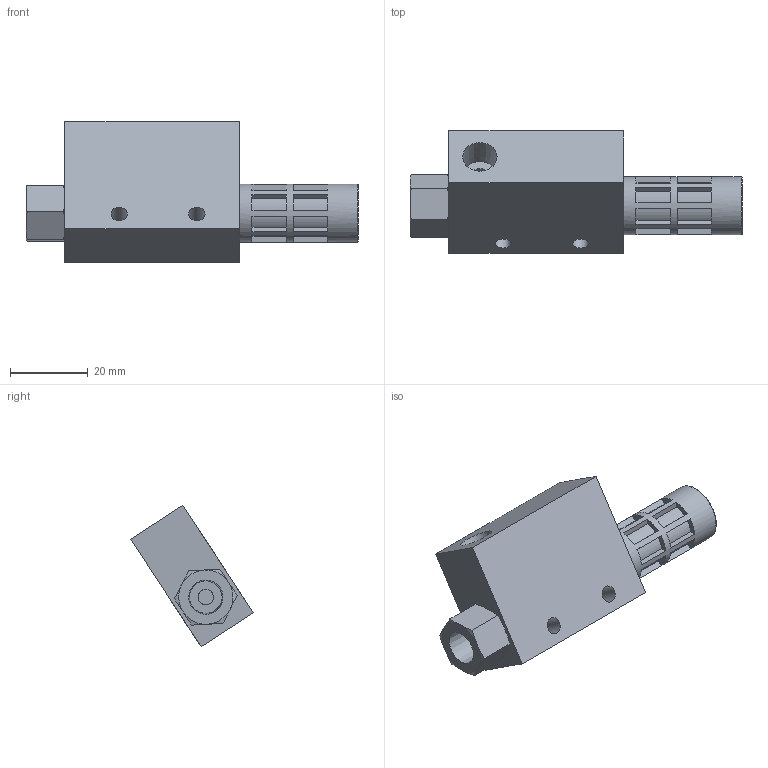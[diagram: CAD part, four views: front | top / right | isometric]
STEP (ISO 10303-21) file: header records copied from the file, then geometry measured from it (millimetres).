
FILE_DESCRIPTION(('STEP AP203'),'1');
FILE_NAME('.stp','2024-06-22T05:54:54',(' '),(' '),'Spatial InterOp 3D',' ',' ');
FILE_SCHEMA(('CONFIG_CONTROL_DESIGN'));
Length unit declared in the file: millimetre
Products named in the file (3): BCV-05,10HSNS; BMSS-01
Assembly tree (2 placements, depth 2):
  (unnamed)
    BCV-05,10HSNS
    BMSS-01
Bounding box: 85.5 x 31.44 x 36.38 mm (x, y, z)
Volume: 28025 mm3; surface area: 10013.4 mm2
Topology: 2 solids, 2 shells, 124 faces, 284 edges, 184 vertices
Faces by surface type: plane 83, cylinder 24, cone 16, torus 1
Full cylindrical faces by diameter (mm): 4 x2, 4.2 x2, 8.566 x1, 8.797 x1, 9.728 x1, 15 x1
Entity records: 3594 total; most frequent: CARTESIAN_POINT 635, DIRECTION 598, ORIENTED_EDGE 538, EDGE_CURVE 269, AXIS2_PLACEMENT_3D 226, VERTEX_POINT 183, EDGE_LOOP 166, LINE 146
